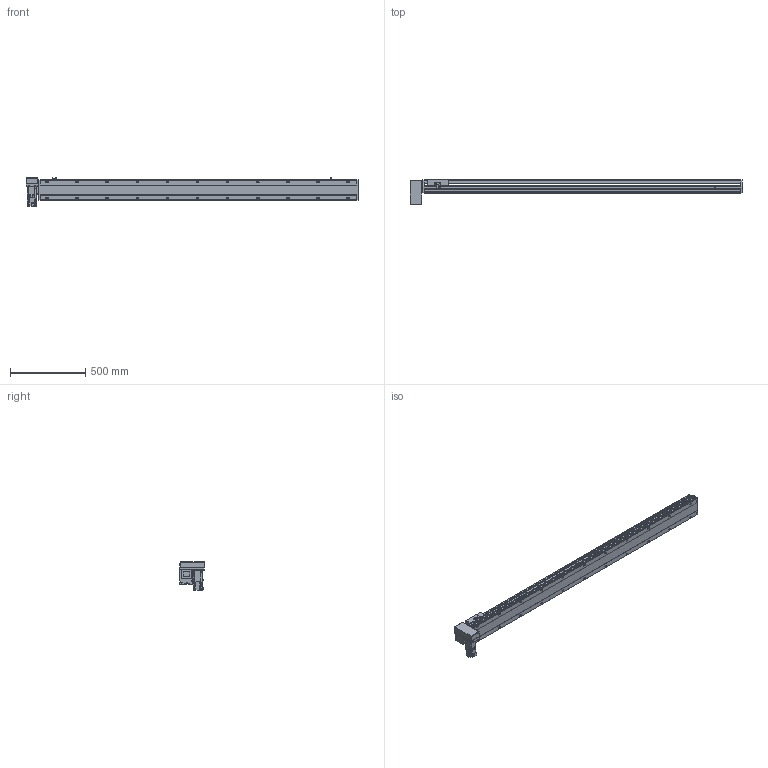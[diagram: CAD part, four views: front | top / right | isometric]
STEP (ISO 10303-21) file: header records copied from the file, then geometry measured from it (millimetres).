
FILE_DESCRIPTION(/* description */ ('STEP AP214'),/* implementation_level */ '2;1');
FILE_NAME(/* name */ 'PBS140S-P40-S1850-RD-T40-C1-N(0)',/* time_stamp */ '2022-06-09T02:47:05+02:00',/* author */ ('License CC BY-ND 4.0'),/* organization */ ('CADENAS'),/* preprocessor_version */ 'ST-DEVELOPER v18.102',/* originating_system */ 'PARTsolutions',/* authorisation */ ' ');
FILE_SCHEMA (('AUTOMOTIVE_DESIGN {1 0 10303 214 3 1 1}'));
Length unit declared in the file: millimetre
Products named in the file (7): PBS140S-P40-S1850-RD-T40-C1-N(0); PBS140S_sensor; PBS140S_plant; PBS140S_sliser; T40-p1; PBS140ST-RD_motors; PBS140S-S1850()_body
Assembly tree (8 placements, depth 2):
  PBS140S-P40-S1850-RD-T40-C1-N(0)
    PBS140S_sensor  x3
    PBS140S_plant
    PBS140S_sliser
    T40-p1
    PBS140ST-RD_motors
    PBS140S-S1850()_body
Bounding box: 2204 x 172.5 x 189.7 mm (x, y, z)
Volume: 10911535.3 mm3; surface area: 1851906.8 mm2
Topology: 8 solids, 8 shells, 1147 faces, 3031 edges, 1983 vertices
Faces by surface type: plane 720, cylinder 369, cone 48, sphere 8, torus 2
Full cylindrical faces by diameter (mm): 3.242 x4, 4 x2, 4.134 x4, 4.4 x8, 4.5 x2, 4.8 x4, 4.917 x30, 5.5 x7, 6 x2, 7 x24, 7.5 x8, 8 x12, 8.5 x4, 10.5 x22, 14 x1, 30 x2, 50 x2
Entity records: 32870 total; most frequent: CARTESIAN_POINT 6152, DIRECTION 5558, ORIENTED_EDGE 5242, EDGE_CURVE 2621, AXIS2_PLACEMENT_3D 1949, VERTEX_POINT 1825, LINE 1660, VECTOR 1660
